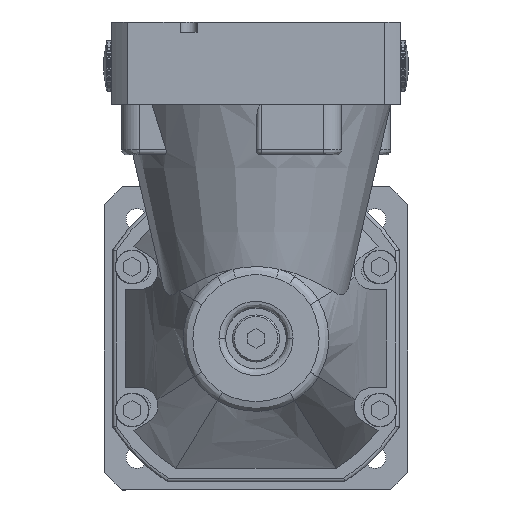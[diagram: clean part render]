
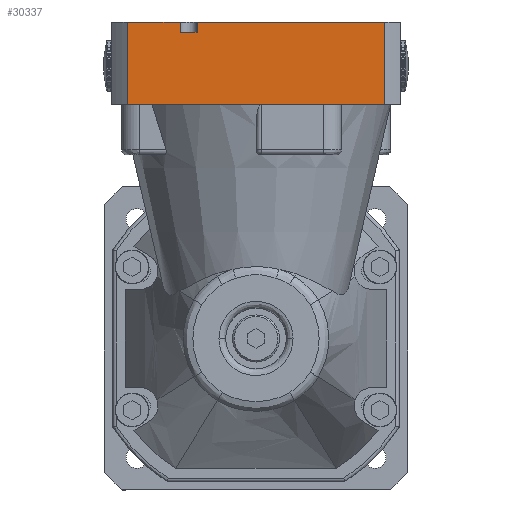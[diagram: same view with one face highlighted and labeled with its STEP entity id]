
A CAD part, left-side view. The second image highlights one B-rep face of the part: STEP entity #30337.
In plain terms, the highlighted planar face has unit normal (-1, 0, 0).
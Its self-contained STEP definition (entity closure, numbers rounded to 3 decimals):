
#256 = DIRECTION ( 'NONE',  ( 0., -1., 0. ) ) ;
#1549 = VERTEX_POINT ( 'NONE', #36253 ) ;
#3885 = ORIENTED_EDGE ( 'NONE', *, *, #60060, .F. ) ;
#5919 = CARTESIAN_POINT ( 'NONE',  ( -154.197, -141.872, 225.623 ) ) ;
#7416 = LINE ( 'NONE', #56533, #38386 ) ;
#7634 = VERTEX_POINT ( 'NONE', #34709 ) ;
#8265 = EDGE_CURVE ( 'NONE', #30257, #24247, #61210, .T. ) ;
#9865 = FACE_OUTER_BOUND ( 'NONE', #31006, .T. ) ;
#10410 = ORIENTED_EDGE ( 'NONE', *, *, #20270, .F. ) ;
#11220 = VECTOR ( 'NONE', #256, 1000. ) ;
#12503 = EDGE_CURVE ( 'NONE', #40691, #66869, #15099, .T. ) ;
#13280 = VECTOR ( 'NONE', #61933, 1000. ) ;
#15099 = LINE ( 'NONE', #23505, #30056 ) ;
#16124 = CARTESIAN_POINT ( 'NONE',  ( -154.197, -146.698, 250.123 ) ) ;
#16872 = EDGE_CURVE ( 'NONE', #24247, #44876, #39557, .T. ) ;
#17666 = LINE ( 'NONE', #33705, #62894 ) ;
#17839 = CARTESIAN_POINT ( 'NONE',  ( -154.197, -86.198, 250.123 ) ) ;
#18873 = CARTESIAN_POINT ( 'NONE',  ( -154.197, -86.198, 210.623 ) ) ;
#20270 = EDGE_CURVE ( 'NONE', #44876, #67245, #66493, .T. ) ;
#21459 = LINE ( 'NONE', #16124, #33976 ) ;
#23505 = CARTESIAN_POINT ( 'NONE',  ( -154.197, -103.698, 225.623 ) ) ;
#23863 = DIRECTION ( 'NONE',  ( 0., 1., 0. ) ) ;
#24247 = VERTEX_POINT ( 'NONE', #58252 ) ;
#24885 = DIRECTION ( 'NONE',  ( 0., 1., 0. ) ) ;
#26305 = PLANE ( 'NONE',  #62242 ) ;
#29229 = DIRECTION ( 'NONE',  ( 0., -1., 0. ) ) ;
#30056 = VECTOR ( 'NONE', #23863, 1000. ) ;
#30247 = EDGE_CURVE ( 'NONE', #66869, #7634, #7416, .T. ) ;
#30257 = VERTEX_POINT ( 'NONE', #56883 ) ;
#30337 = ADVANCED_FACE ( 'NONE', ( #9865 ), #26305, .F. ) ;
#31006 = EDGE_LOOP ( 'NONE', ( #62458, #10410, #61190, #58841, #53377, #3885, #34361, #43113 ) ) ;
#33705 = CARTESIAN_POINT ( 'NONE',  ( -154.197, -141.872, 210.623 ) ) ;
#33976 = VECTOR ( 'NONE', #38202, 1000. ) ;
#34361 = ORIENTED_EDGE ( 'NONE', *, *, #30247, .F. ) ;
#34709 = CARTESIAN_POINT ( 'NONE',  ( -154.197, -65.524, 250.123 ) ) ;
#36253 = CARTESIAN_POINT ( 'NONE',  ( -154.197, -81.198, 250.123 ) ) ;
#36506 = VECTOR ( 'NONE', #29229, 1000. ) ;
#38202 = DIRECTION ( 'NONE',  ( 0., -1., 0. ) ) ;
#38386 = VECTOR ( 'NONE', #61531, 1000. ) ;
#39062 = DIRECTION ( 'NONE',  ( 0., 0., -1. ) ) ;
#39557 = LINE ( 'NONE', #18873, #13280 ) ;
#40691 = VERTEX_POINT ( 'NONE', #5919 ) ;
#41931 = CARTESIAN_POINT ( 'NONE',  ( -154.197, -65.524, 225.623 ) ) ;
#42374 = LINE ( 'NONE', #47329, #62801 ) ;
#42672 = CARTESIAN_POINT ( 'NONE',  ( -154.197, -146.698, 210.623 ) ) ;
#43113 = ORIENTED_EDGE ( 'NONE', *, *, #12503, .F. ) ;
#44876 = VERTEX_POINT ( 'NONE', #17839 ) ;
#47329 = CARTESIAN_POINT ( 'NONE',  ( -154.197, -81.198, 210.623 ) ) ;
#47629 = DIRECTION ( 'NONE',  ( 1., 0., 0. ) ) ;
#49737 = CARTESIAN_POINT ( 'NONE',  ( -154.197, -146.698, 250.123 ) ) ;
#53377 = ORIENTED_EDGE ( 'NONE', *, *, #63662, .F. ) ;
#56533 = CARTESIAN_POINT ( 'NONE',  ( -154.197, -65.524, 250.124 ) ) ;
#56883 = CARTESIAN_POINT ( 'NONE',  ( -154.197, -81.198, 247.123 ) ) ;
#58252 = CARTESIAN_POINT ( 'NONE',  ( -154.197, -86.198, 247.123 ) ) ;
#58841 = ORIENTED_EDGE ( 'NONE', *, *, #8265, .F. ) ;
#60060 = EDGE_CURVE ( 'NONE', #7634, #1549, #21459, .T. ) ;
#61190 = ORIENTED_EDGE ( 'NONE', *, *, #16872, .F. ) ;
#61210 = LINE ( 'NONE', #66240, #36506 ) ;
#61531 = DIRECTION ( 'NONE',  ( 0., 0., 1. ) ) ;
#61933 = DIRECTION ( 'NONE',  ( 0., 0., 1. ) ) ;
#62242 = AXIS2_PLACEMENT_3D ( 'NONE', #42672, #47629, #24885 ) ;
#62458 = ORIENTED_EDGE ( 'NONE', *, *, #65170, .F. ) ;
#62801 = VECTOR ( 'NONE', #63698, 1000. ) ;
#62894 = VECTOR ( 'NONE', #39062, 1000. ) ;
#63662 = EDGE_CURVE ( 'NONE', #1549, #30257, #42374, .T. ) ;
#63698 = DIRECTION ( 'NONE',  ( 0., 0., -1. ) ) ;
#65170 = EDGE_CURVE ( 'NONE', #67245, #40691, #17666, .T. ) ;
#66240 = CARTESIAN_POINT ( 'NONE',  ( -154.197, -146.698, 247.123 ) ) ;
#66493 = LINE ( 'NONE', #49737, #11220 ) ;
#66869 = VERTEX_POINT ( 'NONE', #41931 ) ;
#67245 = VERTEX_POINT ( 'NONE', #69234 ) ;
#69234 = CARTESIAN_POINT ( 'NONE',  ( -154.197, -141.872, 250.123 ) ) ;
